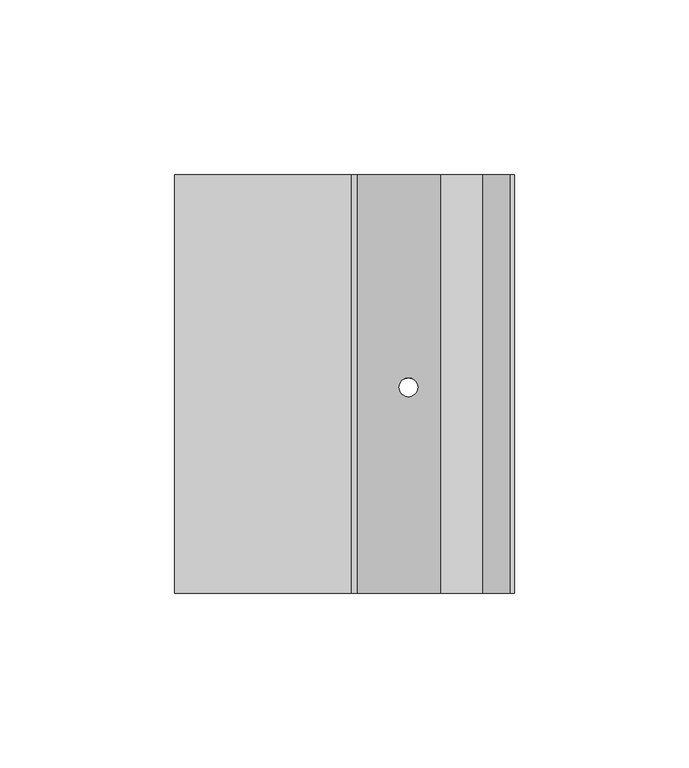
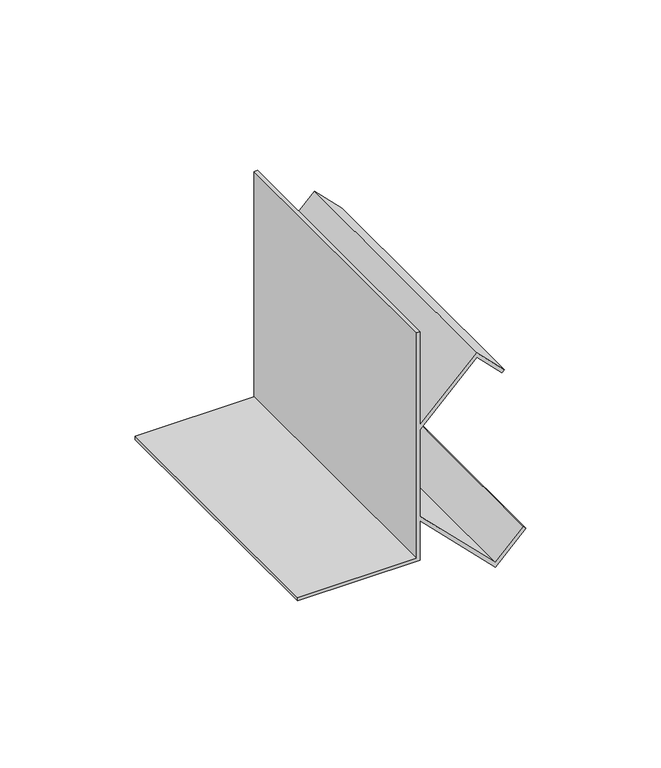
"""IFC4 building model written with IfcOpenShell, lengths in millimetres: proxy geometry, Mechanical Fittings & Accessories13 : Mechanical Fittings & Accessories."""

from ifc_helpers import new_model, si_unit, frame, origin, place, context, project, spatial, polyline, ellipse_curve, source, transform, mapped, element, save
from ifc_brep_helpers import plane_surface, revolved_surface, advanced_brep


def generic_models_d7e25b7b(model_context):
    return source(origin(), model_context, "Body", "AdvancedBrep", [
        advanced_brep(
        [(-12208.7639562, 4565.4963986, 4114.8), (-12259.5639562, 4565.4963986, 4114.8), (-12259.5639562, 4565.4963986, 4113.3117188), (-12207.275675, 4565.4963986, 4113.3117188), (-12207.275675, 4565.4963986, 4131.1383509), (-12175.165914, 4565.4963986, 4099.0285899), (-12162.1869427, 4565.4963986, 4112.0075612), (-12163.2393164, 4565.4963986, 4113.059935), (-12175.165914, 4565.4963986, 4101.1333374), (-12207.275675, 4565.4963986, 4133.2430984), (-12207.275675, 4565.4963986, 4172.2761118), (-12183.103414, 4565.4963986, 4196.4483729), (-12172.3674414, 4565.4963986, 4185.7124003), (-12171.3150677, 4565.4963986, 4186.7647741), (-12183.103414, 4565.4963986, 4198.5531204), (-12207.275675, 4565.4963986, 4174.3808594), (-12207.275675, 4565.4963986, 4216.4), (-12208.7639562, 4565.4963986, 4216.4), (-12208.7639562, 4685.4645457, 4114.8), (-12208.7639562, 4685.4645457, 4216.4), (-12207.275675, 4685.4645457, 4216.4), (-12207.275675, 4685.4645457, 4174.3808594), (-12183.103414, 4685.4645457, 4198.5531204), (-12171.3150677, 4685.4645457, 4186.7647741), (-12172.3674414, 4685.4645457, 4185.7124003), (-12183.103414, 4685.4645457, 4196.4483729), (-12207.275675, 4685.4645457, 4172.2761118), (-12207.275675, 4685.4645457, 4133.2430984), (-12175.165914, 4685.4645457, 4101.1333374), (-12163.2393164, 4685.4645457, 4113.059935), (-12162.1869427, 4685.4645457, 4112.0075612), (-12175.165914, 4685.4645457, 4099.0285899), (-12207.275675, 4685.4645457, 4131.1383509), (-12207.275675, 4685.4645457, 4113.3117188), (-12259.5639562, 4685.4645457, 4113.3117188), (-12259.5639562, 4685.4645457, 4114.8), (-12195.1617646, 4624.5191481, 4119.0244406), (-12189.8223978, 4624.5191481, 4113.6850737), (-12189.8223978, 4624.5191481, 4115.7898213), (-12195.1617646, 4624.5191481, 4121.1291881), (-12195.1617646, 4624.5191481, 4184.3900222), (-12189.8223978, 4624.5191481, 4189.729389), (-12189.8223978, 4624.5191481, 4191.8341365), (-12195.1617646, 4624.5191481, 4186.4947697)],
        [
            (0, 1),
            (1, 2),
            (2, 3),
            (3, 4),
            (4, 5),
            (5, 6),
            (6, 7),
            (7, 8),
            (8, 9),
            (9, 10),
            (10, 11),
            (11, 12),
            (12, 13),
            (13, 14),
            (14, 15),
            (15, 16),
            (16, 17),
            (17, 0),
            (18, 19),
            (19, 20),
            (20, 21),
            (21, 22),
            (22, 23),
            (23, 24),
            (24, 25),
            (25, 26),
            (26, 27),
            (27, 28),
            (28, 29),
            (29, 30),
            (30, 31),
            (31, 32),
            (32, 33),
            (33, 34),
            (34, 35),
            (35, 18),
            (0, 18),
            (35, 1),
            (34, 2),
            (33, 3),
            (32, 4),
            (31, 5),
            (36, 37, ellipse_curve(frame((-12192.4920812, 4624.5191481, 4116.3547571), z_axis=(0.7071067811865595, 0.0, 0.7071067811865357), x_axis=(-0.7071067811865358, 0.0, 0.7071067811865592)), 3.7755025, 2.6696834)),
            (37, 36, ellipse_curve(frame((-12192.4920812, 4624.5191481, 4116.3547571), z_axis=(0.7071067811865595, 0.0, 0.7071067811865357), x_axis=(-0.7071067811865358, 0.0, 0.7071067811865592)), 3.7755025, 2.6696834)),
            (30, 6),
            (29, 7),
            (28, 8),
            (27, 9),
            (38, 39, ellipse_curve(frame((-12192.4920812, 4624.5191481, 4118.4595047), z_axis=(-0.7071067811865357, 0.0, -0.7071067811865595), x_axis=(-0.7071067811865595, 0.0, 0.7071067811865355)), 3.7755025, 2.6696834)),
            (39, 38, ellipse_curve(frame((-12192.4920812, 4624.5191481, 4118.4595047), z_axis=(-0.7071067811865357, 0.0, -0.7071067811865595), x_axis=(-0.7071067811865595, 0.0, 0.7071067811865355)), 3.7755025, 2.6696834)),
            (26, 10),
            (25, 11),
            (40, 41, ellipse_curve(frame((-12192.4920812, 4624.5191481, 4187.0597056), z_axis=(-0.7071067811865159, 0.0, 0.7071067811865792), x_axis=(0.7071067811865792, 0.0, 0.7071067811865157)), 3.7755025, 2.6696834)),
            (41, 40, ellipse_curve(frame((-12192.4920812, 4624.5191481, 4187.0597056), z_axis=(-0.7071067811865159, 0.0, 0.7071067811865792), x_axis=(0.7071067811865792, 0.0, 0.7071067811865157)), 3.7755025, 2.6696834)),
            (24, 12),
            (23, 13),
            (22, 14),
            (21, 15),
            (42, 43, ellipse_curve(frame((-12192.4920812, 4624.5191481, 4189.1644531), z_axis=(0.7071067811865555, 0.0, -0.7071067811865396), x_axis=(0.7071067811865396, 0.0, 0.7071067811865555)), 3.7755025, 2.6696834)),
            (43, 42, ellipse_curve(frame((-12192.4920812, 4624.5191481, 4189.1644531), z_axis=(0.7071067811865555, 0.0, -0.7071067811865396), x_axis=(0.7071067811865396, 0.0, 0.7071067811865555)), 3.7755025, 2.6696834)),
            (20, 16),
            (19, 17),
            (36, 39),
            (38, 37),
            (40, 43),
            (42, 41),
        ],
        [
            plane_surface(frame((-12259.5639562, 4565.4963986, 4114.8), z_axis=(0.0, -1.0, 0.0), x_axis=(-1.0, 0.0, 0.0))),
            plane_surface(frame((-12259.5639562, 4685.4645457, 4114.8), z_axis=(0.0, 1.0, 0.0), x_axis=(1.0, 0.0, 0.0))),
            plane_surface(frame((-12208.7639562, 4565.4963986, 4114.8), z_axis=(0.0, 0.0, 1.0), x_axis=(0.0, 1.0, 0.0))),
            plane_surface(frame((-12259.5639562, 4565.4963986, 4114.8), z_axis=(-1.0, 0.0, 0.0), x_axis=(0.0, 1.0, 0.0))),
            plane_surface(frame((-12259.5639562, 4565.4963986, 4113.3117188), z_axis=(0.0, 0.0, -1.0), x_axis=(0.0, 1.0, 0.0))),
            plane_surface(frame((-12207.275675, 4565.4963986, 4113.3117188), z_axis=(1.0, 0.0, 0.0), x_axis=(0.0, 1.0, 0.0))),
            plane_surface(frame((-12207.275675, 4565.4963986, 4131.1383509), z_axis=(-0.7071067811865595, 0.0, -0.7071067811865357), x_axis=(0.0, 1.0, 0.0))),
            plane_surface(frame((-12175.165914, 4565.4963986, 4099.0285899), z_axis=(0.7071067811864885, 0.0, -0.7071067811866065), x_axis=(0.0, 1.0, 0.0))),
            plane_surface(frame((-12162.1869427, 4565.4963986, 4112.0075612), z_axis=(0.7071067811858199, 0.0, 0.7071067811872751), x_axis=(0.0, 1.0, 0.0))),
            plane_surface(frame((-12163.2393164, 4565.4963986, 4113.059935), z_axis=(-0.7071067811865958, 0.0, 0.7071067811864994), x_axis=(0.0, 1.0, 0.0))),
            plane_surface(frame((-12175.165914, 4565.4963986, 4101.1333374), z_axis=(0.7071067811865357, 0.0, 0.7071067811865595), x_axis=(0.0, 1.0, 0.0))),
            plane_surface(frame((-12207.275675, 4565.4963986, 4133.2430984), z_axis=(1.0, 0.0, 0.0), x_axis=(0.0, 1.0, 0.0))),
            plane_surface(frame((-12207.275675, 4565.4963986, 4172.2761118), z_axis=(0.7071067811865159, 0.0, -0.7071067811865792), x_axis=(0.0, 1.0, 0.0))),
            plane_surface(frame((-12183.103414, 4565.4963986, 4196.4483729), z_axis=(-0.7071067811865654, 0.0, -0.7071067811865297), x_axis=(0.0, 1.0, 0.0))),
            plane_surface(frame((-12172.3674414, 4565.4963986, 4185.7124003), z_axis=(0.7071067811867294, 0.0, -0.7071067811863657), x_axis=(0.0, 1.0, 0.0))),
            plane_surface(frame((-12171.3150677, 4565.4963986, 4186.7647741), z_axis=(0.707106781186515, 0.0, 0.70710678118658), x_axis=(0.0, 1.0, 0.0))),
            plane_surface(frame((-12183.103414, 4565.4963986, 4198.5531204), z_axis=(-0.7071067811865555, 0.0, 0.7071067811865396), x_axis=(0.0, 1.0, 0.0))),
            plane_surface(frame((-12207.275675, 4565.4963986, 4174.3808594), z_axis=(1.0, 0.0, 0.0), x_axis=(0.0, 1.0, 0.0))),
            plane_surface(frame((-12207.275675, 4565.4963986, 4216.4), z_axis=(0.0, 0.0, 1.0), x_axis=(0.0, 1.0, 0.0))),
            plane_surface(frame((-12208.7639562, 4565.4963986, 4216.4), z_axis=(-1.0, 0.0, 0.0), x_axis=(0.0, 1.0, 0.0))),
            revolved_surface(polyline([(-12189.8223978, 4624.5191481, 4121.129188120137), (-12189.8223978, 4624.5191481, 4113.685073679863)]), (-12192.4920812, 4624.5191481, 4097.2034211), (0.0, 0.0, 1.0)),
            revolved_surface(polyline([(-12189.8223978, 4624.5191481, 4191.834136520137), (-12189.8223978, 4624.5191481, 4184.390022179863)]), (-12192.4920812, 4624.5191481, 4097.2034211), (0.0, 0.0, 1.0)),
        ],
        [
            (0, [[1, 2, 3, 4, 5, 6, 7, 8, 9, 10, 11, 12, 13, 14, 15, 16, 17, 18]]),
            (1, [[19, 20, 21, 22, 23, 24, 25, 26, 27, 28, 29, 30, 31, 32, 33, 34, 35, 36]]),
            (2, [[-1, 37, -36, 38]]),
            (3, [[-2, -38, -35, 39]]),
            (4, [[-3, -39, -34, 40]]),
            (5, [[-4, -40, -33, 41]]),
            (6, [[-5, -41, -32, 42], [43, 44]]),
            (7, [[-6, -42, -31, 45]]),
            (8, [[-7, -45, -30, 46]]),
            (9, [[-8, -46, -29, 47]]),
            (10, [[-9, -47, -28, 48], [49, 50]]),
            (11, [[-10, -48, -27, 51]]),
            (12, [[-11, -51, -26, 52], [53, 54]]),
            (13, [[-12, -52, -25, 55]]),
            (14, [[-13, -55, -24, 56]]),
            (15, [[-14, -56, -23, 57]]),
            (16, [[-15, -57, -22, 58], [59, 60]]),
            (17, [[-16, -58, -21, 61]]),
            (18, [[-17, -61, -20, 62]]),
            (19, [[-18, -62, -19, -37]]),
            (20, [[63, -49, 64, -43]]),
            (21, [[65, -59, 66, -53]]),
            (20, [[-63, -44, -64, -50]]),
            (21, [[-65, -54, -66, -60]]),
        ],
    ),
    ])


if __name__ == "__main__":
    model = new_model("IFC4")
    model_context = context("Model", 3, world=origin())
    ifc_project = project(units=[si_unit("LENGTHUNIT", "METRE", prefix="MILLI")], contexts=[model_context])
    site = spatial("IfcSite", under=ifc_project)
    building = spatial("IfcBuilding", under=site)
    placement = place(None, origin())
    generic_models_shape = generic_models_d7e25b7b(model_context)
    element("IfcBuildingElementProxy", 1, Name="Mechanical Fittings & Accessories13 : Mechanical Fittings & Accessories", ObjectType="Mechanical Fittings & Accessories13 : Mechanical Fittings & Accessories", at=placement, inside=building, context=model_context, shape_type="MappedRepresentation", body=[
        mapped(generic_models_shape, transform((0.0, 0.0, 0.0), x_axis=(1.0, 0.0, 0.0), y_axis=(0.0, 1.0, 0.0), z_axis=(0.0, 0.0, 1.0))),
    ])
    save(model, "model.ifc")
